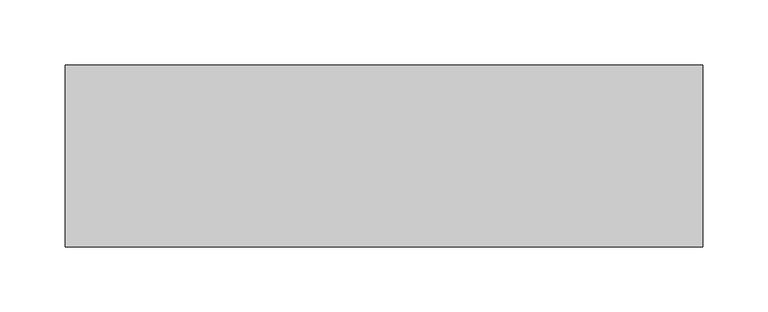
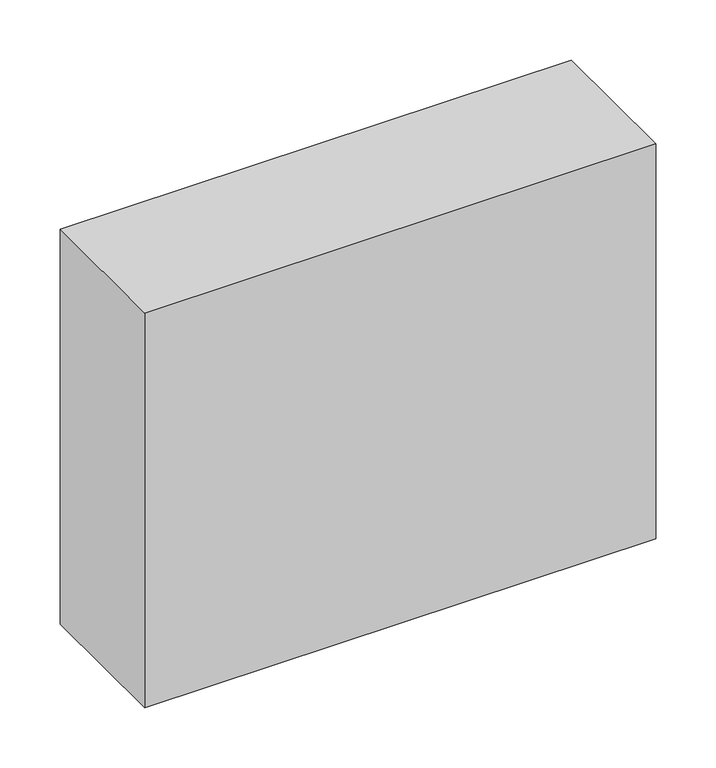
"""IFC4 building model written with IfcOpenShell, lengths in millimetres: proxy geometry."""

from ifc_helpers import new_model, si_unit, frame, origin, place, context, project, spatial, polyline, outline, extrude, source, transform, mapped, element, save


def structural_framing_fbb1ed2c(model_context):
    return source(origin(), model_context, "Body", "SweptSolid", [
        extrude(outline(polyline([(-245.0, -70.0), (-245.0, 70.0), (245.0, 70.0), (245.0, -70.0), (-245.0, -70.0)])), frame((0.0, 0.0, -400.0), z_axis=(0.0, 0.0, 1.0), x_axis=(1.0, 0.0, 0.0)), (0.0, 0.0, 1.0), 400.0),
    ])


if __name__ == "__main__":
    model = new_model("IFC4")
    model_context = context("Model", 3, world=origin())
    ifc_project = project(units=[si_unit("LENGTHUNIT", "METRE", prefix="MILLI")], contexts=[model_context])
    site = spatial("IfcSite", under=ifc_project)
    building = spatial("IfcBuilding", under=site)
    placement = place(None, origin())
    structural_framing_shape = structural_framing_fbb1ed2c(model_context)
    element("IfcBuildingElementProxy", 1, Name="Structural Framing", at=placement, inside=building, context=model_context, shape_type="MappedRepresentation", body=[
        mapped(structural_framing_shape, transform((0.0, 0.0, 0.0), x_axis=(1.0, 0.0, 0.0), y_axis=(0.0, 1.0, 0.0), z_axis=(0.0, 0.0, 1.0))),
    ])
    save(model, "model.ifc")
